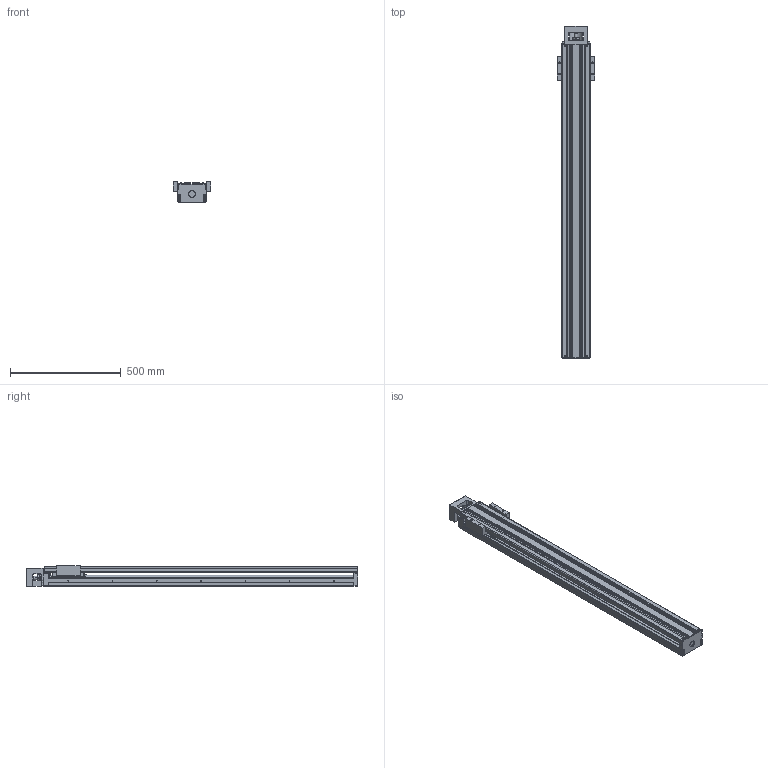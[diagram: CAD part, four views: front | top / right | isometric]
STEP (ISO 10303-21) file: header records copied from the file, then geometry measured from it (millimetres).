
FILE_DESCRIPTION(('no description'),'unknown implementation level');
FILE_NAME('KK13025P1380A1F0C00_FILE_6.stp',' ',('HIWIN GmbH'),('CADClick - KiM GmbH - www.kimweb.de'),'unknown preprocess','ACIS','unknown authorization');
FILE_SCHEMA(('automotive_design'));
Length unit declared in the file: millimetre
Products named in the file (2): KK130_FILE; KK13025P1380A1F0C00_FILE
Bounding box: 170 x 1498 x 94 mm (x, y, z)
Volume: 6737649.7 mm3; surface area: 1344628.9 mm2
Topology: 2 solids, 11 shells, 977 faces, 2472 edges, 1601 vertices
Faces by surface type: plane 591, cylinder 332, torus 46, cone 6, sphere 2
Entity records: 57810 total; most frequent: DIRECTION 5260, CARTESIAN_POINT 5158, STYLED_ITEM 5050, PRESENTATION_STYLE_ASSIGNMENT 5050, COLOUR_RGB 5050, ORIENTED_EDGE 4940, EDGE_CURVE 2470, CURVE_STYLE 2470
